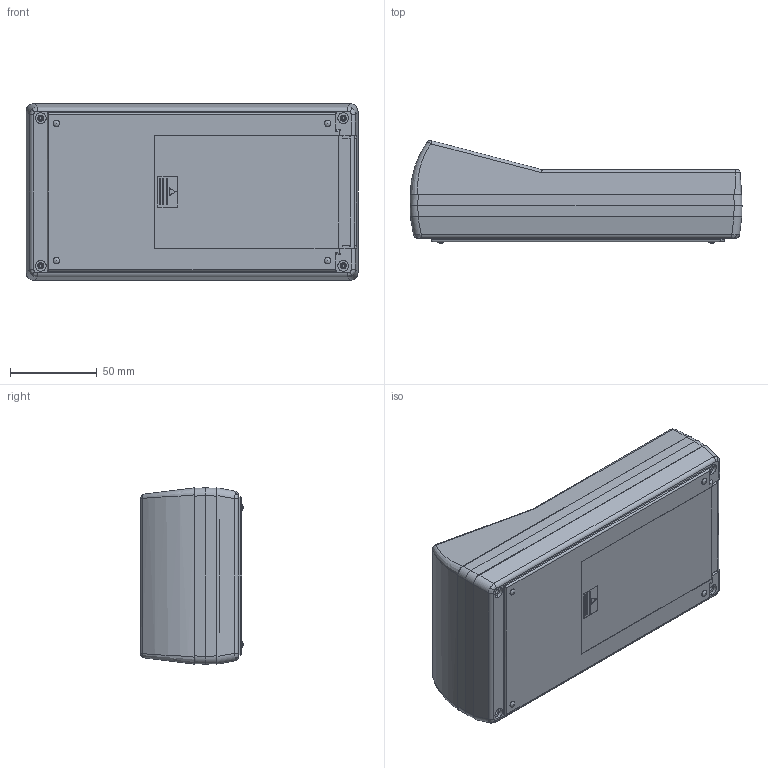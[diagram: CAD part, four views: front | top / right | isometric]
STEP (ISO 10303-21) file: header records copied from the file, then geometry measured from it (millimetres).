
FILE_DESCRIPTION (( 'STEP AP214' ), '1' );
FILE_NAME ('90-51-4C-E-R.STEP', '2019-12-01T17:18:43', ( 'Rudy' ), ( '' ), 'SwSTEP 2.0', 'SolidWorks 2014', '' );
FILE_SCHEMA (( 'AUTOMOTIVE_DESIGN' ));
Length unit declared in the file: millimetre
Products named in the file (6): 100 bessel; 100 Top Angled LCD; 100-01 BOT-4C; 90-51-4C-E-R; 4C door; 100-06 EXPANDER
Assembly tree (5 placements, depth 2):
  90-51-4C-E-R
    100-01 BOT-4C
    100 Top Angled LCD
    100 bessel
    100-06 EXPANDER
    4C door
Bounding box: 191 x 59.13 x 101.4 mm (x, y, z)
Volume: 159565.2 mm3; surface area: 173597.1 mm2
Topology: 5 solids, 5 shells, 747 faces, 1993 edges, 1279 vertices
Faces by surface type: plane 480, cylinder 191, cone 40, bspline 20, torus 12, sphere 4
Entity records: 24412 total; most frequent: CARTESIAN_POINT 5877, ORIENTED_EDGE 3958, DIRECTION 3545, EDGE_CURVE 1979, LINE 1445, VECTOR 1445, VERTEX_POINT 1271, AXIS2_PLACEMENT_3D 1050
